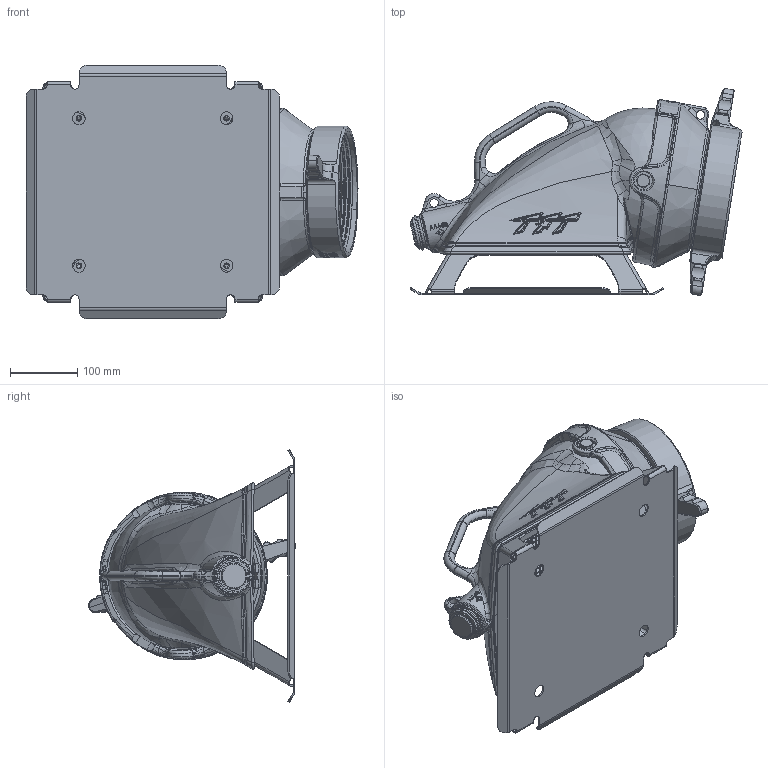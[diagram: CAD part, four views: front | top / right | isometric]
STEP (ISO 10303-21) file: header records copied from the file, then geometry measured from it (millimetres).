
FILE_DESCRIPTION (( 'STEP AP203' ), '1' );
FILE_NAME ('A03HNX.STEP', '2017-05-15T14:34:21', ( '' ), ( '' ), 'SwSTEP 2.0', 'SolidWorks 2016', '' );
FILE_SCHEMA (( 'CONFIG_CONTROL_DESIGN' ));
Length unit declared in the file: inch
Products named in the file (1): A03HNX
Bounding box: 494.85 x 308.71 x 377.86 mm (x, y, z)
Surface area: 952141.2 mm2 (no closed solid volume)
Topology: 0 solids, 55 shells, 1315 faces, 6909 edges, 4899 vertices
Faces by surface type: bspline 461, cylinder 357, plane 282, torus 99, cone 91, sphere 25
Entity records: 108587 total; most frequent: CARTESIAN_POINT 63985, ORIENTED_EDGE 10555, EDGE_CURVE 6903, DIRECTION 6529, VERTEX_POINT 4899, B_SPLINE_CURVE_WITH_KNOTS 3035, AXIS2_PLACEMENT_3D 2357, VECTOR 1815
